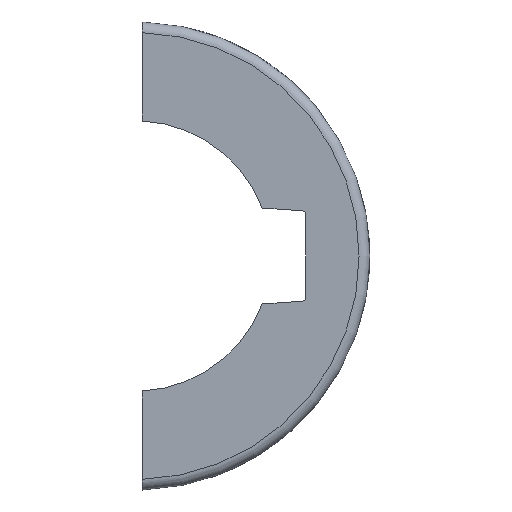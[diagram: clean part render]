
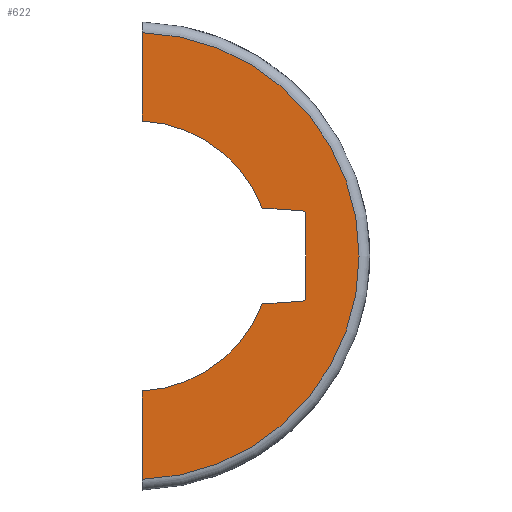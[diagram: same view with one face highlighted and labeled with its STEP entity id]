
A CAD part, left-side view. The second image highlights one B-rep face of the part: STEP entity #622.
In plain terms, the highlighted planar face has unit normal (-1, 0, 0).
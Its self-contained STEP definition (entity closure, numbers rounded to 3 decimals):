
#13=CARTESIAN_POINT('',(-7.,-15.622,-3.873));
#14=DIRECTION('',(1.,0.,0.));
#15=DIRECTION('',(0.,-1.,0.));
#16=AXIS2_PLACEMENT_3D('',#13,#14,#15);
#18=DIRECTION('',(0.,0.,-1.));
#19=VECTOR('',#18,7.745);
#20=CARTESIAN_POINT('',(-7.,-16.,3.873));
#21=LINE('',#20,#19);
#22=CARTESIAN_POINT('',(-7.,-15.622,3.873));
#23=DIRECTION('',(1.,0.,0.));
#24=DIRECTION('',(0.,-0.07,0.998));
#25=AXIS2_PLACEMENT_3D('',#22,#23,#24);
#27=DIRECTION('',(0.,-0.998,-0.07));
#28=VECTOR('',#27,3.787);
#29=CARTESIAN_POINT('',(-7.,-11.871,4.514));
#30=LINE('',#29,#28);
#31=CARTESIAN_POINT('',(-7.,0.,0.));
#32=DIRECTION('',(1.,0.,0.));
#33=DIRECTION('',(0.,-0.049,0.999));
#34=AXIS2_PLACEMENT_3D('',#31,#32,#33);
#36=DIRECTION('',(0.,0.,1.));
#37=VECTOR('',#36,8.306);
#38=CARTESIAN_POINT('',(-7.,-0.625,12.685));
#39=LINE('',#38,#37);
#40=DIRECTION('',(0.,0.,1.));
#41=VECTOR('',#40,8.306);
#42=CARTESIAN_POINT('',(-7.,-0.625,-20.991));
#43=LINE('',#42,#41);
#44=CARTESIAN_POINT('',(-7.,0.,0.));
#45=DIRECTION('',(1.,0.,0.));
#46=DIRECTION('',(0.,-0.935,-0.355));
#47=AXIS2_PLACEMENT_3D('',#44,#45,#46);
#49=DIRECTION('',(0.,0.998,-0.07));
#50=VECTOR('',#49,3.787);
#51=CARTESIAN_POINT('',(-7.,-15.648,-4.25));
#52=LINE('',#51,#50);
#305=CARTESIAN_POINT('',(-7.,0.,0.));
#306=DIRECTION('',(-1.,0.,0.));
#307=DIRECTION('',(0.,-0.03,-1.));
#308=AXIS2_PLACEMENT_3D('',#305,#306,#307);
#487=CARTESIAN_POINT('',(-7.,-0.625,-20.991));
#488=CARTESIAN_POINT('',(-7.,-0.625,20.991));
#489=VERTEX_POINT('',#487);
#490=VERTEX_POINT('',#488);
#543=CARTESIAN_POINT('',(-7.,-0.625,12.685));
#545=VERTEX_POINT('',#543);
#547=CARTESIAN_POINT('',(-7.,-0.625,-12.685));
#549=VERTEX_POINT('',#547);
#567=CARTESIAN_POINT('',(-7.,-16.,-3.873));
#568=CARTESIAN_POINT('',(-7.,-15.648,-4.25));
#569=VERTEX_POINT('',#567);
#570=VERTEX_POINT('',#568);
#571=CARTESIAN_POINT('',(-7.,-11.871,-4.514));
#572=VERTEX_POINT('',#571);
#573=CARTESIAN_POINT('',(-7.,-11.871,4.514));
#574=CARTESIAN_POINT('',(-7.,-15.648,4.25));
#575=VERTEX_POINT('',#573);
#576=VERTEX_POINT('',#574);
#577=CARTESIAN_POINT('',(-7.,-16.,3.873));
#578=VERTEX_POINT('',#577);
#595=CARTESIAN_POINT('',(-7.,0.,0.));
#596=DIRECTION('',(1.,0.,0.));
#597=DIRECTION('',(0.,0.,1.));
#598=AXIS2_PLACEMENT_3D('',#595,#596,#597);
#599=PLANE('',#598);
#601=ORIENTED_EDGE('',*,*,#600,.F.);
#603=ORIENTED_EDGE('',*,*,#602,.F.);
#605=ORIENTED_EDGE('',*,*,#604,.F.);
#607=ORIENTED_EDGE('',*,*,#606,.F.);
#609=ORIENTED_EDGE('',*,*,#608,.F.);
#611=ORIENTED_EDGE('',*,*,#610,.T.);
#613=ORIENTED_EDGE('',*,*,#612,.F.);
#615=ORIENTED_EDGE('',*,*,#614,.T.);
#617=ORIENTED_EDGE('',*,*,#616,.F.);
#619=ORIENTED_EDGE('',*,*,#618,.F.);
#620=EDGE_LOOP('',(#601,#603,#605,#607,#609,#611,#613,#615,#617,#619));
#621=FACE_OUTER_BOUND('',#620,.F.);
#17=CIRCLE('',#16,0.378);
#26=CIRCLE('',#25,0.378);
#35=CIRCLE('',#34,12.7);
#48=CIRCLE('',#47,12.7);
#309=CIRCLE('',#308,21.);
#600=EDGE_CURVE('',#569,#570,#17,.T.);
#602=EDGE_CURVE('',#578,#569,#21,.T.);
#604=EDGE_CURVE('',#576,#578,#26,.T.);
#606=EDGE_CURVE('',#575,#576,#30,.T.);
#608=EDGE_CURVE('',#545,#575,#35,.T.);
#610=EDGE_CURVE('',#545,#490,#39,.T.);
#612=EDGE_CURVE('',#489,#490,#309,.T.);
#614=EDGE_CURVE('',#489,#549,#43,.T.);
#616=EDGE_CURVE('',#572,#549,#48,.T.);
#618=EDGE_CURVE('',#570,#572,#52,.T.);
#622=ADVANCED_FACE('',(#621),#599,.F.);
